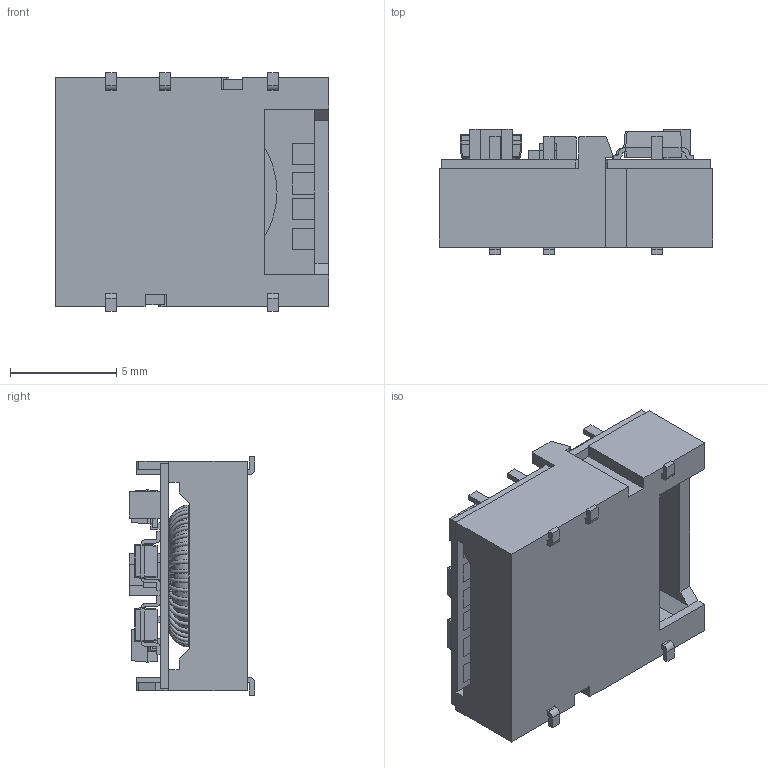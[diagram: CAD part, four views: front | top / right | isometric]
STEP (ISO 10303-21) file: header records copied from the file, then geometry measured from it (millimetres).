
FILE_DESCRIPTION(('FreeCAD Model'),'2;1');
FILE_NAME('X:/Application Engineering/4 Documentation/3 Users/1 MaS/3D Projekt/R1SX_3D_20190722.step','2019-07-22T12:46:34',(''),(''), 'Open CASCADE STEP processor 7.3','FreeCAD','Unknown');
FILE_SCHEMA(('CONFIG_CONTROL_DESIGN','SHAPE_APPEARANCE_LAYER_MIM'));
Length unit declared in the file: millimetre
Products named in the file (82): R1SX_N1584; R1SX_N1541; R1SX_N1558; R1SX_N1542; R1SX_N1543; R1SX_N1557; R1SX_N1595; R1SX_N1596; R1SX_N1544; R1SX_N1535; R1SX_N1539; R1SX_N1551; R1SX_N1553; R1SX_N1594; R1SX_N1554; R1SX_N1587; R1SX_N1552; R1SX_N1588; R1SX_N1536; R1SX_N1555; R1SX_N1537; R1SX_N1556; R1SX_N1538; R1SX_N1550; R1SX_N1589; R1SX_N1547; R1SX_N1593; R1SX_N1548; R1SX_N1549; R1SX_N1540; R1SX_N1592; R1SX_N1591; R1SX_N1590; R1SX_N1526; R1SX_N1575; R1SX_N1580; R1SX_N1574; R1SX_N1524; R1SX_N1577; R1SX_N1527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
Bounding box: 12.85 x 5.9 x 11.2 mm (x, y, z)
Volume: 344.2 mm3; surface area: 1340.8 mm2
Topology: 82 solids, 82 shells, 854 faces, 1943 edges, 1173 vertices
Faces by surface type: plane 373, cylinder 281, torus 184, sphere 16
Full cylindrical faces by diameter (mm): 0.18 x180, 0.5 x1, 0.7 x5, 2.8 x1, 6.3 x1
Entity records: 78694 total; most frequent: CARTESIAN_POINT 38225, DIRECTION 6460, ORIENTED_EDGE 3886, PCURVE 3886, DEFINITIONAL_REPRESENTATION 3886, LINE 3586, VECTOR 3586, EDGE_CURVE 1943
